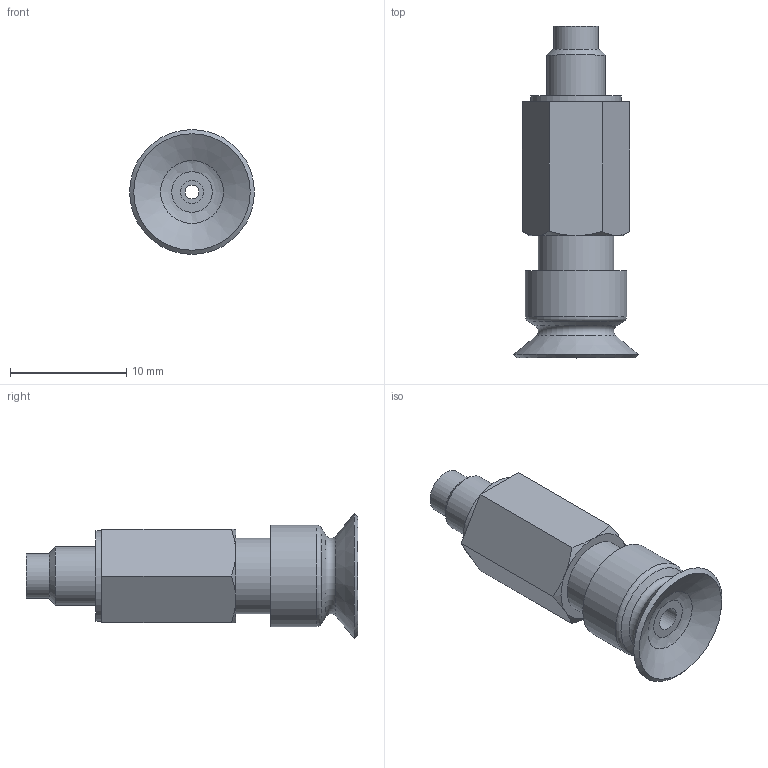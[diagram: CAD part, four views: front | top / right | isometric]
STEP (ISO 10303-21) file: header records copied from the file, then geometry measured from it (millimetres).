
FILE_DESCRIPTION(('STEP AP203'),'1');
FILE_NAME('.stp','2025-04-07T02:45:31',(' '),(' '),'Spatial InterOp 3D',' ',' ');
FILE_SCHEMA(('CONFIG_CONTROL_DESIGN'));
Length unit declared in the file: millimetre
Products named in the file (4): BPSS-L3-BPFG-10A-※; BPSS-7-L3-M; BPSS-7-L3-F; BPFG-10A-※
Assembly tree (3 placements, depth 2):
  BPSS-L3-BPFG-10A-※
    BPSS-7-L3-M
    BPSS-7-L3-F
    BPFG-10A-※
Bounding box: 10.72 x 28.5 x 10.72 mm (x, y, z)
Volume: 1093.6 mm3; surface area: 1739 mm2
Topology: 3 solids, 3 shells, 55 faces, 103 edges, 65 vertices
Faces by surface type: plane 23, cylinder 15, cone 11, torus 5, bspline 1
Full cylindrical faces by diameter (mm): 1.2 x1, 2 x1, 2.4 x2, 3.4 x1, 3.8 x1, 4 x2, 5 x1, 6 x2, 6.5 x2, 7.8 x1, 8.7 x1
Entity records: 1437 total; most frequent: CARTESIAN_POINT 242, DIRECTION 224, ORIENTED_EDGE 144, AXIS2_PLACEMENT_3D 106, EDGE_LOOP 98, FACE_OUTER_BOUND 76, EDGE_CURVE 72, VERTEX_POINT 60
